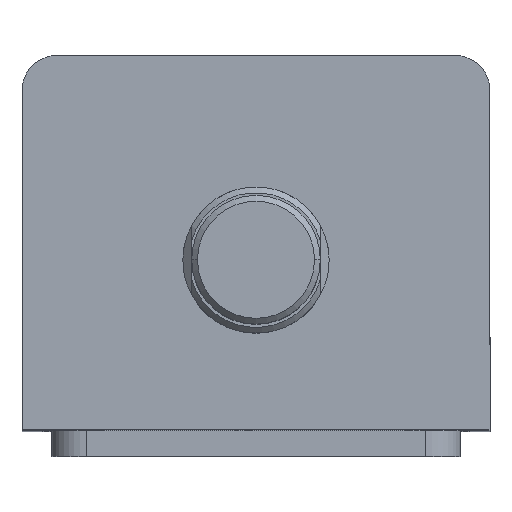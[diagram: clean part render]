
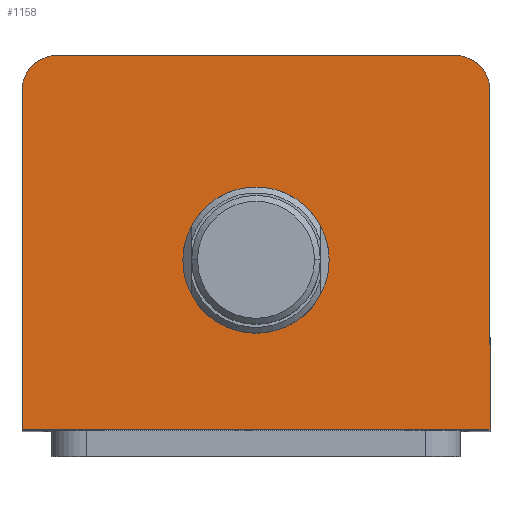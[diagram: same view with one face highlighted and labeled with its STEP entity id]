
A CAD part, top view. The second image highlights one B-rep face of the part: STEP entity #1158.
In plain terms, the highlighted planar face has unit normal (0, 0, 1).
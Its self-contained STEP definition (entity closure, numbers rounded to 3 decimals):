
#8 = VERTEX_POINT ( 'NONE', #3726 ) ;
#252 = VERTEX_POINT ( 'NONE', #3683 ) ;
#295 = EDGE_CURVE ( 'NONE', #366, #398, #1795, .T. ) ;
#366 = VERTEX_POINT ( 'NONE', #3132 ) ;
#380 = VERTEX_POINT ( 'NONE', #2840 ) ;
#398 = VERTEX_POINT ( 'NONE', #3073 ) ;
#410 = EDGE_CURVE ( 'NONE', #252, #8, #2306, .T. ) ;
#440 = EDGE_CURVE ( 'NONE', #8, #252, #2348, .T. ) ;
#653 = DIRECTION ( 'NONE',  ( 1., 0., 0. ) ) ;
#659 = DIRECTION ( 'NONE',  ( 0., 0., 1. ) ) ;
#679 = PLANE ( 'NONE',  #2007 ) ;
#681 = CARTESIAN_POINT ( 'NONE',  ( 0., 0., 165. ) ) ;
#795 = EDGE_CURVE ( 'NONE', #398, #380, #2374, .T. ) ;
#1071 = ORIENTED_EDGE ( 'NONE', *, *, #295, .T. ) ;
#1088 = ORIENTED_EDGE ( 'NONE', *, *, #410, .F. ) ;
#1104 = ORIENTED_EDGE ( 'NONE', *, *, #1893, .T. ) ;
#1110 = ORIENTED_EDGE ( 'NONE', *, *, #440, .F. ) ;
#1158 = ADVANCED_FACE ( 'NONE', ( #2448, #2453 ), #679, .T. ) ;
#1357 = VERTEX_POINT ( 'NONE', #3341 ) ;
#1410 = VERTEX_POINT ( 'NONE', #3315 ) ;
#1460 = ORIENTED_EDGE ( 'NONE', *, *, #3180, .T. ) ;
#1639 = EDGE_LOOP ( 'NONE', ( #1071, #1846, #1827, #1833, #1104, #1460 ) ) ;
#1747 = EDGE_LOOP ( 'NONE', ( #1088, #1110 ) ) ;
#1795 = LINE ( 'NONE', #3680, #1800 ) ;
#1800 = VECTOR ( 'NONE', #3671, 1000. ) ;
#1827 = ORIENTED_EDGE ( 'NONE', *, *, #3126, .T. ) ;
#1833 = ORIENTED_EDGE ( 'NONE', *, *, #3277, .T. ) ;
#1846 = ORIENTED_EDGE ( 'NONE', *, *, #795, .T. ) ;
#1893 = EDGE_CURVE ( 'NONE', #1410, #3193, #2658, .T. ) ;
#1948 = AXIS2_PLACEMENT_3D ( 'NONE', #2940, #2863, #2924 ) ;
#1962 = AXIS2_PLACEMENT_3D ( 'NONE', #3059, #3057, #3028 ) ;
#1970 = AXIS2_PLACEMENT_3D ( 'NONE', #2962, #2969, #2966 ) ;
#2007 = AXIS2_PLACEMENT_3D ( 'NONE', #681, #659, #653 ) ;
#2140 = AXIS2_PLACEMENT_3D ( 'NONE', #3241, #3240, #3239 ) ;
#2306 = CIRCLE ( 'NONE', #1948, 12.5 ) ;
#2348 = CIRCLE ( 'NONE', #1962, 12.5 ) ;
#2374 = CIRCLE ( 'NONE', #1970, 6. ) ;
#2448 = FACE_BOUND ( 'NONE', #1747, .T. ) ;
#2453 = FACE_OUTER_BOUND ( 'NONE', #1639, .T. ) ;
#2658 = LINE ( 'NONE', #3356, #2660 ) ;
#2660 = VECTOR ( 'NONE', #3326, 1000. ) ;
#2748 = LINE ( 'NONE', #3245, #2751 ) ;
#2750 = CIRCLE ( 'NONE', #2140, 6. ) ;
#2751 = VECTOR ( 'NONE', #3244, 1000. ) ;
#2770 = LINE ( 'NONE', #3751, #2773 ) ;
#2773 = VECTOR ( 'NONE', #3752, 1000. ) ;
#2840 = CARTESIAN_POINT ( 'NONE',  ( -40., 26., 165. ) ) ;
#2863 = DIRECTION ( 'NONE',  ( 0., 0., 1. ) ) ;
#2924 = DIRECTION ( 'NONE',  ( 1., 0., 0. ) ) ;
#2940 = CARTESIAN_POINT ( 'NONE',  ( 0., -3., 165. ) ) ;
#2962 = CARTESIAN_POINT ( 'NONE',  ( -34., 26., 165. ) ) ;
#2966 = DIRECTION ( 'NONE',  ( 1., 0., 0. ) ) ;
#2969 = DIRECTION ( 'NONE',  ( 0., 0., 1. ) ) ;
#3028 = DIRECTION ( 'NONE',  ( 1., 0., 0. ) ) ;
#3057 = DIRECTION ( 'NONE',  ( 0., 0., 1. ) ) ;
#3059 = CARTESIAN_POINT ( 'NONE',  ( 0., -3., 165. ) ) ;
#3073 = CARTESIAN_POINT ( 'NONE',  ( -34., 32., 165. ) ) ;
#3126 = EDGE_CURVE ( 'NONE', #380, #1357, #2748, .T. ) ;
#3132 = CARTESIAN_POINT ( 'NONE',  ( 34., 32., 165. ) ) ;
#3180 = EDGE_CURVE ( 'NONE', #3193, #366, #2750, .T. ) ;
#3193 = VERTEX_POINT ( 'NONE', #3254 ) ;
#3239 = DIRECTION ( 'NONE',  ( 1., 0., 0. ) ) ;
#3240 = DIRECTION ( 'NONE',  ( 0., 0., 1. ) ) ;
#3241 = CARTESIAN_POINT ( 'NONE',  ( 34., 26., 165. ) ) ;
#3244 = DIRECTION ( 'NONE',  ( 0., -1., 0. ) ) ;
#3245 = CARTESIAN_POINT ( 'NONE',  ( -40., 32., 165. ) ) ;
#3254 = CARTESIAN_POINT ( 'NONE',  ( 40., 26., 165. ) ) ;
#3277 = EDGE_CURVE ( 'NONE', #1357, #1410, #2770, .T. ) ;
#3315 = CARTESIAN_POINT ( 'NONE',  ( 40., -32., 165. ) ) ;
#3326 = DIRECTION ( 'NONE',  ( 0., 1., 0. ) ) ;
#3341 = CARTESIAN_POINT ( 'NONE',  ( -40., -32., 165. ) ) ;
#3356 = CARTESIAN_POINT ( 'NONE',  ( 40., 32., 165. ) ) ;
#3671 = DIRECTION ( 'NONE',  ( -1., 0., 0. ) ) ;
#3680 = CARTESIAN_POINT ( 'NONE',  ( -40., 32., 165. ) ) ;
#3683 = CARTESIAN_POINT ( 'NONE',  ( 12.5, -3., 165. ) ) ;
#3726 = CARTESIAN_POINT ( 'NONE',  ( -12.5, -3., 165. ) ) ;
#3751 = CARTESIAN_POINT ( 'NONE',  ( -40., -32., 165. ) ) ;
#3752 = DIRECTION ( 'NONE',  ( 1., 0., 0. ) ) ;
